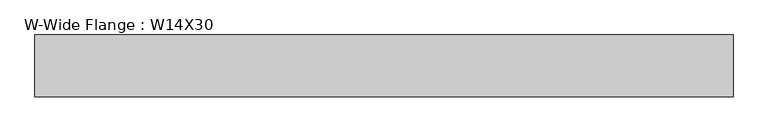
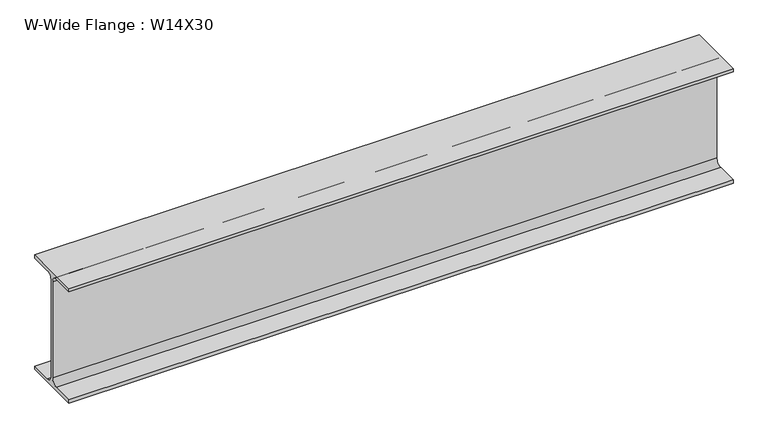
"""IFC4 building model written with IfcOpenShell, lengths in millimetres: beam geometry, W-Wide Flange : W14X30."""

from ifc_helpers import new_model, si_unit, point, frame, frame_2d, origin, place, context, project, spatial, polyline, circle_curve, trimmed, segment, composite_curve, outline, extrude, source, transform, mapped, element, save


def w_wide_flange_w14x30_92f4828e(model_context):
    return source(origin(), model_context, "Body", "SweptSolid", [
        extrude(outline(composite_curve([segment(polyline([(85.4769531, -165.9433594), (85.4769531, -175.7660156), (-85.4769531, -175.7660156), (-85.4769531, -165.9433594), (-22.1753906, -165.9433594)]), True, "CONTINUOUS"), segment(trimmed(circle_curve(frame_2d((-22.1753906, -147.1910156)), 18.7523438), [point((-22.1753906, -165.9433594))], [point((-3.4230469, -147.1910156))], True, "CARTESIAN"), True, "CONTINUOUS"), segment(polyline([(-3.4230469, -147.1910156), (-3.4230469, 147.1910156)]), True, "CONTINUOUS"), segment(trimmed(circle_curve(frame_2d((-22.1753906, 147.1910156)), 18.7523438), [point((-3.4230469, 147.1910156))], [point((-22.1753906, 165.9433594))], True, "CARTESIAN"), True, "CONTINUOUS"), segment(polyline([(-22.1753906, 165.9433594), (-85.4769531, 165.9433594), (-85.4769531, 175.7660156), (85.4769531, 175.7660156), (85.4769531, 165.9433594), (22.1753906, 165.9433594)]), True, "CONTINUOUS"), segment(trimmed(circle_curve(frame_2d((22.1753906, 147.1910156)), 18.7523438), [point((22.1753906, 165.9433594))], [point((3.4230469, 147.1910156))], True, "CARTESIAN"), True, "CONTINUOUS"), segment(polyline([(3.4230469, 147.1910156), (3.4230469, -147.1910156)]), True, "CONTINUOUS"), segment(trimmed(circle_curve(frame_2d((22.1753906, -147.1910156)), 18.7523438), [point((3.4230469, -147.1910156))], [point((22.1753906, -165.9433594))], True, "CARTESIAN"), True, "CONTINUOUS"), segment(polyline([(22.1753906, -165.9433594), (85.4769531, -165.9433594)]), True, "CONTINUOUS")], self_intersect=False)), frame((-862.1481401, 0.0, 0.0), z_axis=(1.0, 0.0, 0.0), x_axis=(0.0, 1.0, 0.0)), (0.0, 0.0, 1.0), 1929.7500595),
    ])


if __name__ == "__main__":
    model = new_model("IFC4")
    model_context = context("Model", 3, world=origin())
    ifc_project = project(units=[si_unit("LENGTHUNIT", "METRE", prefix="MILLI")], contexts=[model_context])
    site = spatial("IfcSite", under=ifc_project)
    building = spatial("IfcBuilding", under=site)
    placement = place(None, origin())
    w_wide_flange_w14x30_shape = w_wide_flange_w14x30_92f4828e(model_context)
    element("IfcBeam", 1, ObjectType="W-Wide Flange : W14X30", at=placement, inside=building, context=model_context, shape_type="MappedRepresentation", body=[
        mapped(w_wide_flange_w14x30_shape, transform((0.0, 0.0, 0.0), x_axis=(1.0, 0.0, 0.0), y_axis=(0.0, 1.0, 0.0), z_axis=(0.0, 0.0, 1.0))),
    ])
    save(model, "model.ifc")
